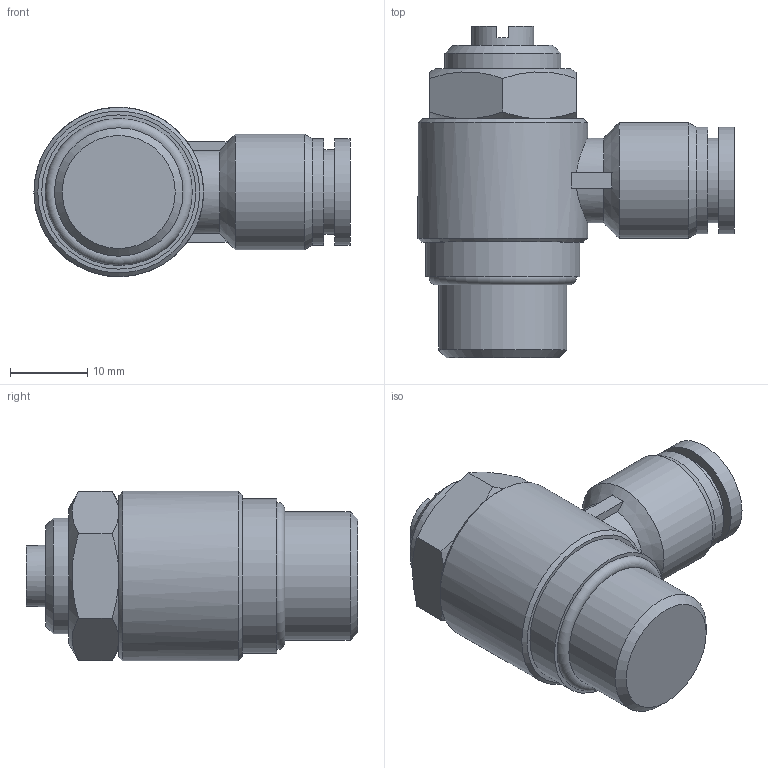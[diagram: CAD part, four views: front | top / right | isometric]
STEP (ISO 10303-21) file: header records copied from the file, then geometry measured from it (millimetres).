
FILE_DESCRIPTION(/* description */ (''),/* implementation_level */ '2;1');
FILE_NAME(/* name */ 'C:\Users\Paola\Desktop\Documenti Konfit\Disegni 3D\DP79C3808.stp',/* time_stamp */ '2015-10-22T19:34:02+02:00',/* author */ ('Paola'),/* organization */ (''),/* preprocessor_version */ 'ST-DEVELOPER v16.1',/* originating_system */ 'Autodesk Inventor 2016',/* authorisation */ '');
FILE_SCHEMA (('AUTOMOTIVE_DESIGN { 1 0 10303 214 3 1 1 }'));
Length unit declared in the file: millimetre
Products named in the file (1): DP79C3808
Bounding box: 41 x 43 x 22 mm (x, y, z)
Volume: 13582.3 mm3; surface area: 5187.5 mm2
Topology: 1 solids, 1 shells, 53 faces, 117 edges, 74 vertices
Faces by surface type: plane 27, cone 13, cylinder 12, torus 1
Full cylindrical faces by diameter (mm): 8 x2, 11 x1, 13.8 x2, 15 x2, 16.662 x1, 20 x1, 22 x1
Entity records: 1377 total; most frequent: CARTESIAN_POINT 294, DIRECTION 214, ORIENTED_EDGE 182, AXIS2_PLACEMENT_3D 95, EDGE_CURVE 91, EDGE_LOOP 80, VERTEX_POINT 67, FACE_OUTER_BOUND 53
